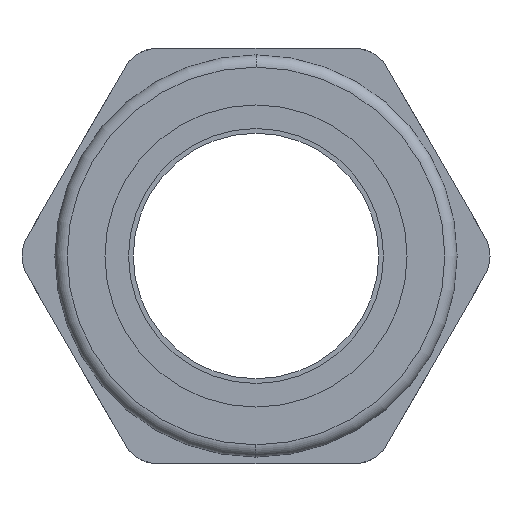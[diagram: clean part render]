
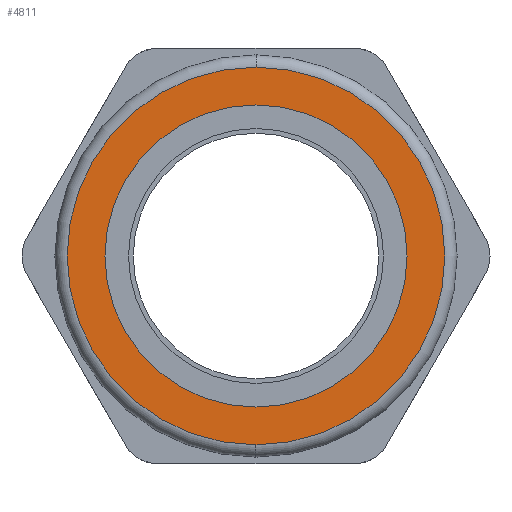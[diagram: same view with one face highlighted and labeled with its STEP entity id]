
A CAD part, left-side view. The second image highlights one B-rep face of the part: STEP entity #4811.
In plain terms, the highlighted planar face has unit normal (-1, 0, 0).
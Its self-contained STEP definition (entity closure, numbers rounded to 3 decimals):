
#157 = ORIENTED_EDGE ( 'NONE', *, *, #1249, .F. ) ;
#196 = DIRECTION ( 'NONE',  ( 1., 0., 0. ) ) ;
#239 = CARTESIAN_POINT ( 'NONE',  ( 0., 0., 0. ) ) ;
#250 = AXIS2_PLACEMENT_3D ( 'NONE', #239, #2737, #1786 ) ;
#682 = DIRECTION ( 'NONE',  ( 0., 0., 1. ) ) ;
#947 = DIRECTION ( 'NONE',  ( -1., 0., 0. ) ) ;
#1027 = CARTESIAN_POINT ( 'NONE',  ( 0., 0., 0. ) ) ;
#1214 = AXIS2_PLACEMENT_3D ( 'NONE', #3443, #196, #4739 ) ;
#1249 = EDGE_CURVE ( 'NONE', #3294, #4993, #1700, .T. ) ;
#1428 = EDGE_LOOP ( 'NONE', ( #5576, #4877 ) ) ;
#1550 = DIRECTION ( 'NONE',  ( 0., 0., 1. ) ) ;
#1637 = CIRCLE ( 'NONE', #3829, 8. ) ;
#1700 = CIRCLE ( 'NONE', #2817, 8. ) ;
#1786 = DIRECTION ( 'NONE',  ( 0., 0., 1. ) ) ;
#1959 = FACE_BOUND ( 'NONE', #3228, .T. ) ;
#2130 = VERTEX_POINT ( 'NONE', #3033 ) ;
#2441 = CARTESIAN_POINT ( 'NONE',  ( 0., 0., 0. ) ) ;
#2682 = CIRCLE ( 'NONE', #2829, 10. ) ;
#2737 = DIRECTION ( 'NONE',  ( -1., 0., 0. ) ) ;
#2817 = AXIS2_PLACEMENT_3D ( 'NONE', #3621, #5896, #682 ) ;
#2829 = AXIS2_PLACEMENT_3D ( 'NONE', #2441, #5807, #5324 ) ;
#3033 = CARTESIAN_POINT ( 'NONE',  ( 0., 0., 10. ) ) ;
#3192 = VERTEX_POINT ( 'NONE', #3324 ) ;
#3228 = EDGE_LOOP ( 'NONE', ( #5053, #157 ) ) ;
#3294 = VERTEX_POINT ( 'NONE', #6301 ) ;
#3324 = CARTESIAN_POINT ( 'NONE',  ( 0., 0., -10. ) ) ;
#3443 = CARTESIAN_POINT ( 'NONE',  ( 0., 10., 0. ) ) ;
#3487 = PLANE ( 'NONE',  #1214 ) ;
#3581 = CARTESIAN_POINT ( 'NONE',  ( 0., 0., 8. ) ) ;
#3621 = CARTESIAN_POINT ( 'NONE',  ( 0., 0., 0. ) ) ;
#3829 = AXIS2_PLACEMENT_3D ( 'NONE', #1027, #947, #1550 ) ;
#4157 = EDGE_CURVE ( 'NONE', #3192, #2130, #5210, .T. ) ;
#4739 = DIRECTION ( 'NONE',  ( 0., 0., -1. ) ) ;
#4811 = ADVANCED_FACE ( 'NONE', ( #1959, #5621 ), #3487, .F. ) ;
#4844 = EDGE_CURVE ( 'NONE', #4993, #3294, #1637, .T. ) ;
#4877 = ORIENTED_EDGE ( 'NONE', *, *, #4157, .T. ) ;
#4993 = VERTEX_POINT ( 'NONE', #3581 ) ;
#5053 = ORIENTED_EDGE ( 'NONE', *, *, #4844, .F. ) ;
#5210 = CIRCLE ( 'NONE', #250, 10. ) ;
#5324 = DIRECTION ( 'NONE',  ( 0., 0., 1. ) ) ;
#5576 = ORIENTED_EDGE ( 'NONE', *, *, #5778, .T. ) ;
#5621 = FACE_OUTER_BOUND ( 'NONE', #1428, .T. ) ;
#5778 = EDGE_CURVE ( 'NONE', #2130, #3192, #2682, .T. ) ;
#5807 = DIRECTION ( 'NONE',  ( -1., 0., 0. ) ) ;
#5896 = DIRECTION ( 'NONE',  ( -1., 0., 0. ) ) ;
#6301 = CARTESIAN_POINT ( 'NONE',  ( 0., 0., -8. ) ) ;
